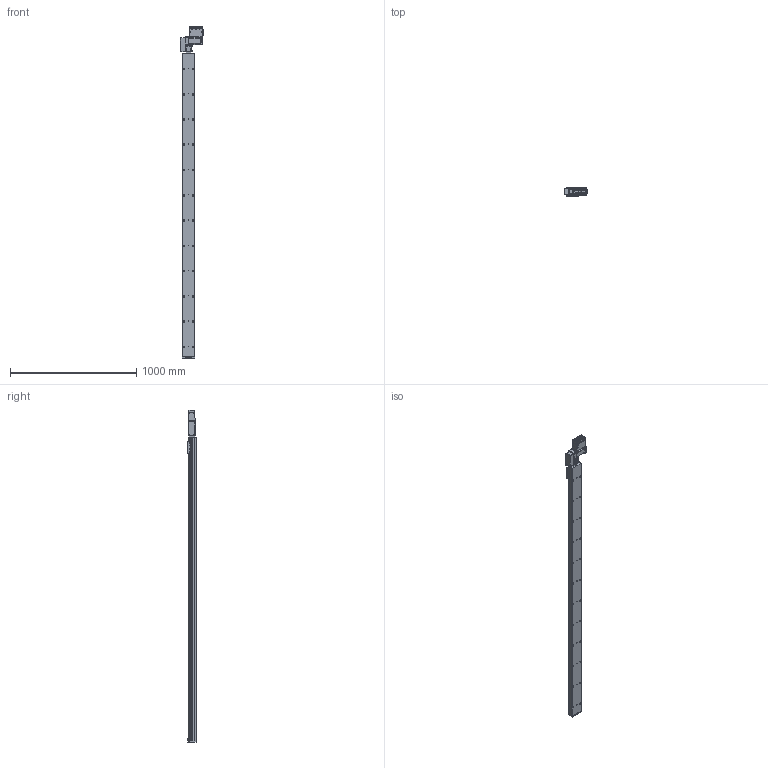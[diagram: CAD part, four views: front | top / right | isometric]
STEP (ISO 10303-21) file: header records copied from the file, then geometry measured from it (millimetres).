
FILE_DESCRIPTION (( 'STEP AP203' ), '1' );
FILE_NAME ('S10 TBN LT S2400.STEP', '2012-06-19T13:44:09', ( 'Conseil Régional Haute-Normandie' ), ( 'Conseil Régional Haute-Normandie' ), 'SwSTEP 2.0', 'SolidWorks 2010', '' );
FILE_SCHEMA (( 'CONFIG_CONTROL_DESIGN' ));
Length unit declared in the file: millimetre
Products named in the file (30): cache t皻e_Default; axe 2400; Plaque racord_Default; renvoi LH_Default; BU41 Carte Alimentation P05_3; T_X2_00F4_X0_le contre le moteur_5; T_X2_00F4_X0_le fond_3; Connecteur rond D10 3cts_5; Connecteur rond D12 4cts_5; T_X2_00F4_X0_le lat_X2_00E9_X0_rale_5; Vis TF 3 torkx_1_1; axe2400_Default; S10 TBN LT S2400; cache t皻e axe_Default; Cvis M5 L30_Default; embout; palette tbn; plaque de bout s10_Default; vis M5 L12_Default; Vis M5 L16-2_Default_1; vis M5 L5_Default; Assem1_7; Colonnette_3; BU45 Carte d''axe A11_5; Moteur 60BLDC90A_3; Couvercle_3; Sub D 9cts 90_X2_00B_X0__3; Radiateur profil_X2_00E9_X0_ 100x25_3; Colonnette ronde_3; T_X2_00F4_X0_le Arri_X2_00E8_X0_re_5
Assembly tree (63 placements, depth 3):
  S10 TBN LT S2400
    vis M5 L5_Default  x4
    renvoi LH_Default
    cache t皻e_Default  x2
    Cvis M5 L30_Default  x2
    vis M5 L12_Default  x4
    cache t皻e axe_Default
    embout
    plaque de bout s10_Default
    Vis M5 L16-2_Default_1  x4
    axe2400_Default
      axe 2400
    Plaque racord_Default
    Assem1_7
      T_X2_00F4_X0_le fond_3
      Vis TF 3 torkx_1_1  x21
      T_X2_00F4_X0_le contre le moteur_5
      Couvercle_3
      Colonnette_3  x2
      T_X2_00F4_X0_le lat_X2_00E9_X0_rale_5  x2
      T_X2_00F4_X0_le Arri_X2_00E8_X0_re_5
      Moteur 60BLDC90A_3
      Connecteur rond D12 4cts_5
      BU41 Carte Alimentation P05_3
      Connecteur rond D10 3cts_5  x2
      Radiateur profil_X2_00E9_X0_ 100x25_3
      Colonnette ronde_3
      Sub D 9cts 90_X2_00B_X0__3
      BU45 Carte d''axe A11_5
    palette tbn
Bounding box: 189.8 x 66.75 x 2628.49 mm (x, y, z)
Volume: 13272595.9 mm3; surface area: 1435693.5 mm2
Topology: 61 solids, 61 shells, 2373 faces, 5874 edges, 3787 vertices
Faces by surface type: plane 1114, cylinder 1034, cone 182, bspline 40, torus 3
Entity records: 49972 total; most frequent: CARTESIAN_POINT 8966, DIRECTION 8113, ORIENTED_EDGE 7328, EDGE_CURVE 3664, AXIS2_PLACEMENT_3D 3033, VERTEX_POINT 2391, LINE 2047, VECTOR 2047
